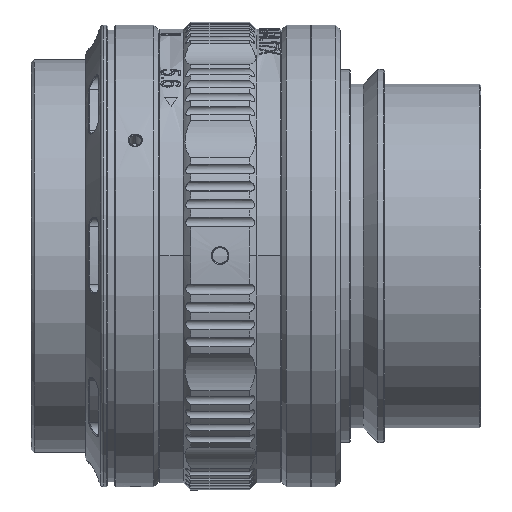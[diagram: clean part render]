
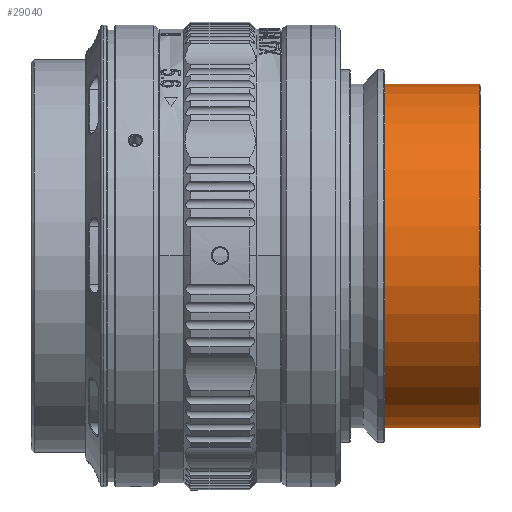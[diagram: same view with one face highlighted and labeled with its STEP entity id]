
A CAD part, top view. The second image highlights one B-rep face of the part: STEP entity #29040.
In plain terms, the highlighted cylindrical face has radius 17.5 mm (diameter 35 mm), a partial arc.
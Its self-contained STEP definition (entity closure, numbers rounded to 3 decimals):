
#3737=CARTESIAN_POINT('',(33.107,0.,0.));
#3738=DIRECTION('',(1.,0.,0.));
#3739=DIRECTION('',(0.,1.,0.));
#3740=AXIS2_PLACEMENT_3D('',#3737,#3738,#3739);
#3742=DIRECTION('',(1.,0.,0.));
#3743=VECTOR('',#3742,9.7);
#3744=CARTESIAN_POINT('',(33.107,-17.5,0.));
#3745=LINE('',#3744,#3743);
#3760=CARTESIAN_POINT('',(42.807,0.,0.));
#3761=DIRECTION('',(-1.,0.,0.));
#3762=DIRECTION('',(0.,-1.,0.));
#3763=AXIS2_PLACEMENT_3D('',#3760,#3761,#3762);
#3765=CARTESIAN_POINT('',(42.807,0.,0.));
#3766=DIRECTION('',(-1.,0.,0.));
#3767=DIRECTION('',(0.,0.,1.));
#3768=AXIS2_PLACEMENT_3D('',#3765,#3766,#3767);
#3774=DIRECTION('',(1.,0.,0.));
#3775=VECTOR('',#3774,9.7);
#3776=CARTESIAN_POINT('',(33.107,17.5,0.));
#3777=LINE('',#3776,#3775);
#22899=CARTESIAN_POINT('',(33.107,-17.5,0.));
#22900=CARTESIAN_POINT('',(33.107,17.5,0.));
#22901=VERTEX_POINT('',#22899);
#22902=VERTEX_POINT('',#22900);
#22903=CARTESIAN_POINT('',(42.807,17.5,0.));
#22905=VERTEX_POINT('',#22903);
#22907=CARTESIAN_POINT('',(42.807,-17.5,0.));
#22908=VERTEX_POINT('',#22907);
#22915=CARTESIAN_POINT('',(42.807,0.,17.5));
#22916=VERTEX_POINT('',#22915);
#29028=CARTESIAN_POINT('',(1.445,0.,0.));
#29029=DIRECTION('',(1.,0.,0.));
#29030=DIRECTION('',(0.,-1.,0.));
#29031=AXIS2_PLACEMENT_3D('',#29028,#29029,#29030);
#29032=CYLINDRICAL_SURFACE('',#29031,17.5);
#29033=ORIENTED_EDGE('',*,*,#29017,.F.);
#29034=ORIENTED_EDGE('',*,*,#29015,.F.);
#29035=ORIENTED_EDGE('',*,*,#28987,.F.);
#29036=ORIENTED_EDGE('',*,*,#28970,.F.);
#29037=ORIENTED_EDGE('',*,*,#28984,.T.);
#29038=EDGE_LOOP('',(#29033,#29034,#29035,#29036,#29037));
#29039=FACE_OUTER_BOUND('',#29038,.F.);
#3741=CIRCLE('',#3740,17.5);
#3764=CIRCLE('',#3763,17.5);
#3769=CIRCLE('',#3768,17.5);
#28970=EDGE_CURVE('',#22902,#22901,#3741,.T.);
#28984=EDGE_CURVE('',#22902,#22905,#3777,.T.);
#28987=EDGE_CURVE('',#22901,#22908,#3745,.T.);
#29015=EDGE_CURVE('',#22908,#22916,#3764,.T.);
#29017=EDGE_CURVE('',#22916,#22905,#3769,.T.);
#29040=ADVANCED_FACE('',(#29039),#29032,.T.);
